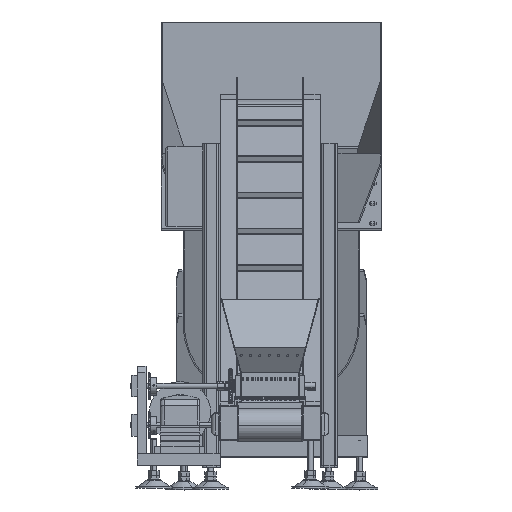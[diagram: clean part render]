
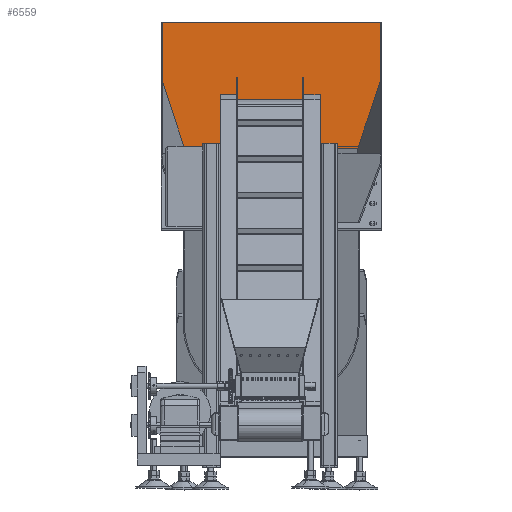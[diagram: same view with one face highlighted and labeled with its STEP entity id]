
A CAD part, top view. The second image highlights one B-rep face of the part: STEP entity #6559.
In plain terms, the highlighted planar face has unit normal (0, 0, 1).
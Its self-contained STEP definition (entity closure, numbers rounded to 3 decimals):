
#3155=PLANE('',#54775);
#6559=ADVANCED_FACE('',(#9434),#3155,.F.);
#9434=FACE_OUTER_BOUND('',#12274,.T.);
#12274=EDGE_LOOP('',(#36930,#36931,#36932,#36933,#36934,#36935));
#18465=LINE('',#92726,#22920);
#18510=LINE('',#92814,#22965);
#18513=LINE('',#92820,#22968);
#18514=LINE('',#92822,#22969);
#18515=LINE('',#92823,#22970);
#18516=LINE('',#92825,#22971);
#22920=VECTOR('',#65759,1.);
#22965=VECTOR('',#65844,1.);
#22968=VECTOR('',#65849,1.);
#22969=VECTOR('',#65850,1.);
#22970=VECTOR('',#65851,1.);
#22971=VECTOR('',#65852,1.);
#36930=ORIENTED_EDGE('',*,*,#49670,.T.);
#36931=ORIENTED_EDGE('',*,*,#49671,.T.);
#36932=ORIENTED_EDGE('',*,*,#49621,.F.);
#36933=ORIENTED_EDGE('',*,*,#49672,.F.);
#36934=ORIENTED_EDGE('',*,*,#49673,.T.);
#36935=ORIENTED_EDGE('',*,*,#49667,.F.);
#42522=VERTEX_POINT('',#92713);
#42528=VERTEX_POINT('',#92725);
#42551=VERTEX_POINT('',#92813);
#42552=VERTEX_POINT('',#92815);
#42554=VERTEX_POINT('',#92821);
#42555=VERTEX_POINT('',#92824);
#49621=EDGE_CURVE('',#42528,#42522,#18465,.T.);
#49667=EDGE_CURVE('',#42551,#42552,#18510,.T.);
#49670=EDGE_CURVE('',#42551,#42554,#18513,.T.);
#49671=EDGE_CURVE('',#42554,#42522,#18514,.T.);
#49672=EDGE_CURVE('',#42555,#42528,#18515,.T.);
#49673=EDGE_CURVE('',#42555,#42552,#18516,.T.);
#54775=AXIS2_PLACEMENT_3D('',#92826,#65853,#65854);
#65759=DIRECTION('',(1.,0.,0.));
#65844=DIRECTION('',(-1.,0.,0.));
#65849=DIRECTION('',(0.315,0.949,0.));
#65850=DIRECTION('',(0.,1.,0.));
#65851=DIRECTION('',(0.,1.,0.));
#65852=DIRECTION('',(0.315,-0.949,0.));
#65853=DIRECTION('',(0.,0.,-1.));
#65854=DIRECTION('',(0.,-1.,0.));
#92713=CARTESIAN_POINT('',(100.5,110.,13.095));
#92725=CARTESIAN_POINT('',(0.5,110.,13.095));
#92726=CARTESIAN_POINT('',(0.,110.,13.095));
#92813=CARTESIAN_POINT('',(90.293,52.146,13.095));
#92814=CARTESIAN_POINT('',(0.,52.146,13.095));
#92815=CARTESIAN_POINT('',(10.707,52.146,13.095));
#92820=CARTESIAN_POINT('',(98.628,77.233,13.095));
#92821=CARTESIAN_POINT('',(100.5,82.868,13.095));
#92822=CARTESIAN_POINT('',(100.5,110.,13.095));
#92823=CARTESIAN_POINT('',(0.5,0.,13.095));
#92824=CARTESIAN_POINT('',(0.5,82.868,13.095));
#92825=CARTESIAN_POINT('',(-7.668,107.453,13.095));
#92826=CARTESIAN_POINT('',(0.,110.,13.095));
